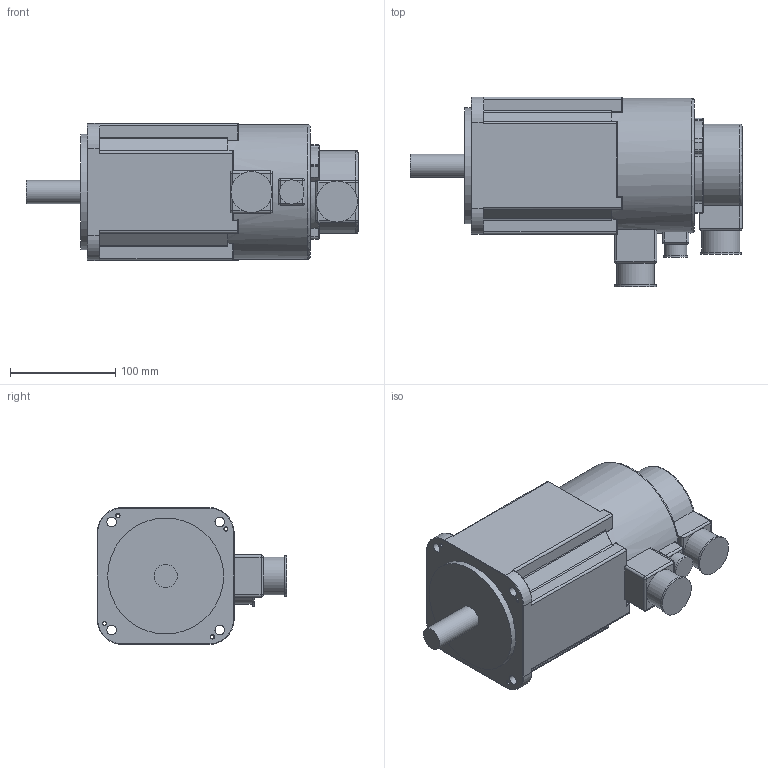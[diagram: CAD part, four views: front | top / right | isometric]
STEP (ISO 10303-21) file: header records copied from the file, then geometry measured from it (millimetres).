
FILE_DESCRIPTION(/* description */ (''),/* implementation_level */ '2;1');
FILE_NAME(/* name */ '130GSL15015-FZ.stp',/* time_stamp */ '2019-11-22T13:54:27+08:00',/* author */ (''),/* organization */ (''),/* preprocessor_version */ 'ST-DEVELOPER v16',/* originating_system */ 'SIEMENS PLM Software NX 10.0',/* authorisation */ '');
FILE_SCHEMA (('CONFIG_CONTROL_DESIGN'));
Length unit declared in the file: millimetre
Products named in the file (1): 130GSL15015-FZ
Bounding box: 315 x 180 x 130 mm (x, y, z)
Volume: 3444199.9 mm3; surface area: 163640.9 mm2
Topology: 1 solids, 1 shells, 329 faces, 808 edges, 459 vertices
Faces by surface type: cylinder 149, plane 90, torus 38, bspline 27, sphere 17, cone 8
Full cylindrical faces by diameter (mm): 3.3 x4, 9 x4, 21 x1, 22 x1, 23 x1, 36 x2, 39 x2, 110 x1, 128 x1
Entity records: 11268 total; most frequent: CARTESIAN_POINT 3845, DIRECTION 1562, ORIENTED_EDGE 1496, EDGE_CURVE 748, AXIS2_PLACEMENT_3D 619, VERTEX_POINT 454, EDGE_LOOP 378, ADVANCED_FACE 329
